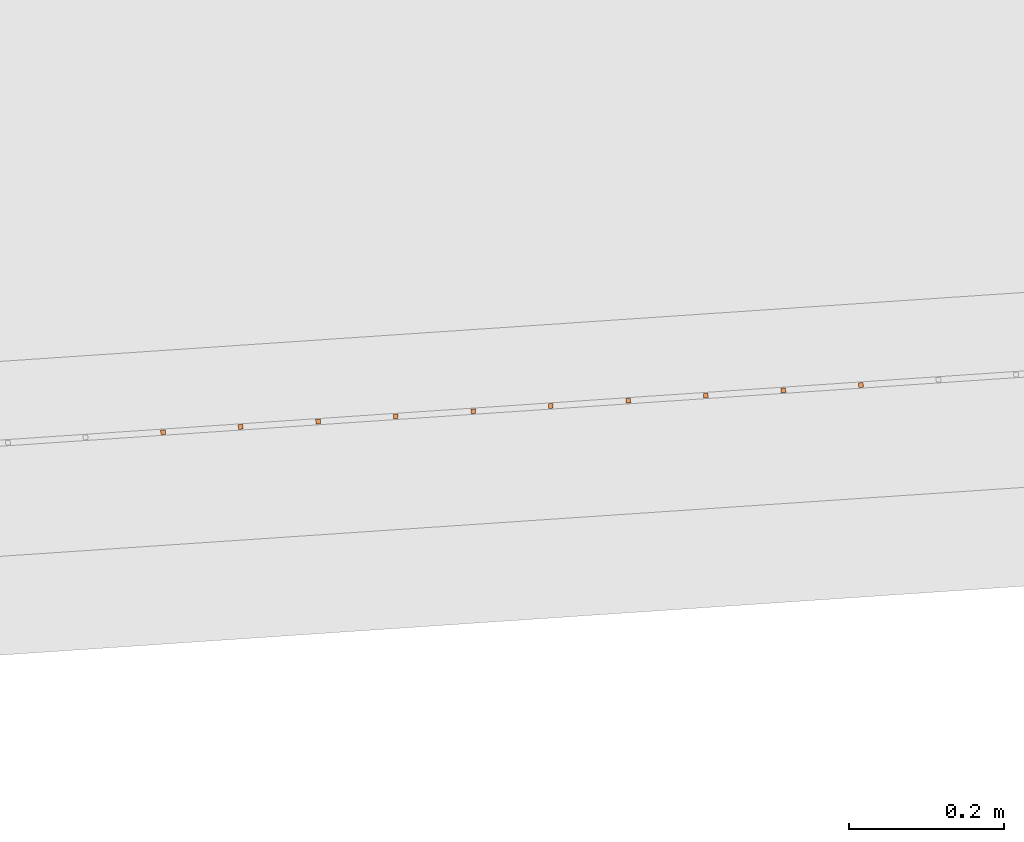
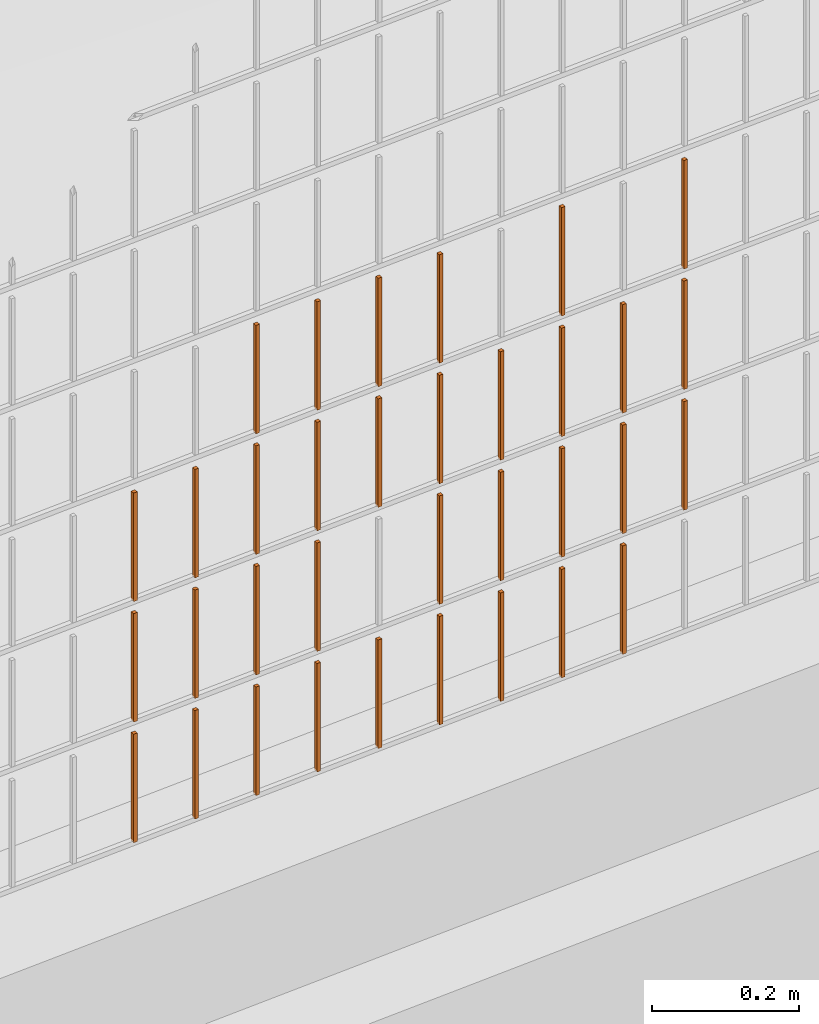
# One storey, part 346 of 1809: 34 proxies, 1 element without a shape of its own.
"""IFC2X3 building model written with IfcOpenShell, lengths in millimetres."""

from ifc_helpers import new_model, entity, si_unit, converted_unit, derived_unit, money_unit, direction, frame, origin_with_axes, place, context, subcontext, project, spatial, faceted_brep, source, transform, mapped, material, type_object, element, aggregate, save


model = new_model("IFC2X3")

# Units and contexts
model_context = context("Model", 3, precision=0.01, world=origin_with_axes(), true_north=direction((0.0, 1.0)))
body_context = subcontext(model_context, "Body", "Model", "MODEL_VIEW")
ifc_project = project(units=[si_unit("LENGTHUNIT", "METRE", prefix="MILLI"), si_unit("AREAUNIT", "SQUARE_METRE"), si_unit("VOLUMEUNIT", "CUBIC_METRE"), converted_unit("PLANEANGLEUNIT", "DEGREE", entity("IfcPlaneAngleMeasure", 0.0174532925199), si_unit("PLANEANGLEUNIT", "RADIAN"), dimensions=[0, 0, 0, 0, 0, 0, 0]), si_unit("SOLIDANGLEUNIT", "STERADIAN"), money_unit("EUR"), converted_unit("TIMEUNIT", "Year", entity("IfcTimeMeasure", 31556926.0), si_unit("TIMEUNIT", "SECOND"), dimensions=[0, 0, 1, 0, 0, 0, 0]), si_unit("MASSUNIT", "GRAM", prefix="KILO"), si_unit("THERMODYNAMICTEMPERATUREUNIT", "DEGREE_CELSIUS"), si_unit("LUMINOUSINTENSITYUNIT", "LUMEN"), si_unit("ENERGYUNIT", "JOULE", prefix="MEGA"), derived_unit("THERMALCONDUCTANCEUNIT", [(si_unit("POWERUNIT", "WATT"), 1), (si_unit("LENGTHUNIT", "METRE"), -1), (si_unit("THERMODYNAMICTEMPERATUREUNIT", "KELVIN"), -1)]), derived_unit("SPECIFICHEATCAPACITYUNIT", [(si_unit("ENERGYUNIT", "JOULE"), 1), (si_unit("MASSUNIT", "GRAM", prefix="KILO"), -1), (si_unit("THERMODYNAMICTEMPERATUREUNIT", "KELVIN"), -1)]), derived_unit("MASSDENSITYUNIT", [(si_unit("MASSUNIT", "GRAM", prefix="KILO"), 1), (si_unit("VOLUMEUNIT", "CUBIC_METRE"), -1)])], contexts=[model_context])

# Site, building, storey
site_placement = place(None, origin_with_axes())
site = spatial("IfcSite", under=ifc_project, at=site_placement, Name="Politse- ja Piirivalveameti ning Päästeameti ühishoone", CompositionType="ELEMENT")
building_placement = place(site_placement, origin_with_axes())
building = spatial("IfcBuilding", under=site, at=building_placement, Name="Politse- ja Piirivalveameti ning Päästeameti ühishoone", CompositionType="ELEMENT")
storey_placement = place(building_placement, origin_with_axes())
storey = spatial("IfcBuildingStorey", under=building, at=storey_placement, Name="Esimene korrus", CompositionType="ELEMENT", Elevation=0.0)

# Proxies
building_element_proxy_type_1 = type_object("IfcBuildingElementProxyType", Name="Railing Type", PredefinedType="NOTDEFINED")
proxy_1_placement = place(storey_placement, frame((89252.001212, -29183.4766571, 203.661247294), z_axis=(0.0, 0.0, 1.0), x_axis=(1.0, 0.0, 0.0)))
proxy_1 = element("IfcBuildingElementProxy", 1, at=proxy_1_placement, inside=storey, type_object=building_element_proxy_type_1, Name="PIIRDEAED")
ifc_material = material(Name="ET-03_Raud")
building_element_proxy_type_2 = type_object("IfcBuildingElementProxyType", Name="IfcBuildingElementProxy", PredefinedType="NOTDEFINED")
shared_shape_1 = source(origin_with_axes(), body_context, "Body", "Brep", [
    faceted_brep([(3.0, 3.0, -0.000752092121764), (-3.0, 3.0, -0.000752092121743), (-3.0, 3.0, 179.99926046), (3.0, 3.0, 179.99926046), (3.0, -3.0, 0.000752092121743), (-3.0, -3.0, 0.000752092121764), (-3.0, -3.0, 180.000764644), (3.0, -3.0, 180.000764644)], [[[0, 1, 2, 3]], [[0, 4, 5, 1]], [[1, 5, 6, 2]], [[3, 2, 6, 7]], [[4, 0, 3, 7]], [[5, 4, 7, 6]]]),
])
proxy_2_placement = place(proxy_1_placement, frame((-28262.2881008, -19206.7856648, 220.132959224), z_axis=(0.0, 0.0, 1.0), x_axis=(1.0, 0.0, 0.0)))
proxy_2 = element("IfcBuildingElementProxy", 2, at=proxy_2_placement, type_object=building_element_proxy_type_2, material=ifc_material, Name="BALUSTER - 001", context=body_context, shape_type="MappedRepresentation", body=[
    mapped(shared_shape_1, transform((0.0, 0.0, 0.0), x_axis=(-0.0673926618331, 0.997726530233, 0.0), y_axis=(-0.997726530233, -0.0673926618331, 0.0), z_axis=(0.0, 0.0, 1.0))),
])
shared_shape_2 = source(origin_with_axes(), body_context, "Body", "Brep", [
    faceted_brep([(3.0, 3.0, -0.000752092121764), (-3.0, 3.0, -0.000752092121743), (-3.0, 3.0, 179.99926046), (3.0, 3.0, 179.99926046), (3.0, -3.0, 0.000752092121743), (-3.0, -3.0, 0.000752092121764), (-3.0, -3.0, 180.000764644), (3.0, -3.0, 180.000764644)], [[[0, 1, 2, 3]], [[0, 4, 5, 1]], [[1, 5, 6, 2]], [[3, 2, 6, 7]], [[4, 0, 3, 7]], [[5, 4, 7, 6]]]),
])
proxy_3_placement = place(proxy_1_placement, frame((-28262.2881008, -19206.7856648, 620.132959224), z_axis=(0.0, 0.0, 1.0), x_axis=(1.0, 0.0, 0.0)))
proxy_3 = element("IfcBuildingElementProxy", 3, at=proxy_3_placement, type_object=building_element_proxy_type_2, material=ifc_material, Name="BALUSTER - 001", context=body_context, shape_type="MappedRepresentation", body=[
    mapped(shared_shape_2, transform((0.0, 0.0, 0.0), x_axis=(-0.0673926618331, 0.997726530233, 0.0), y_axis=(-0.997726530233, -0.0673926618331, 0.0), z_axis=(0.0, 0.0, 1.0))),
])
shared_shape_3 = source(origin_with_axes(), body_context, "Body", "Brep", [
    faceted_brep([(3.0, 3.0, -0.000752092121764), (-3.0, 3.0, -0.000752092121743), (-3.0, 3.0, 179.99926046), (3.0, 3.0, 179.99926046), (3.0, -3.0, 0.000752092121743), (-3.0, -3.0, 0.000752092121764), (-3.0, -3.0, 180.000764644), (3.0, -3.0, 180.000764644)], [[[0, 1, 2, 3]], [[0, 4, 5, 1]], [[1, 5, 6, 2]], [[3, 2, 6, 7]], [[4, 0, 3, 7]], [[5, 4, 7, 6]]]),
])
proxy_4_placement = place(proxy_1_placement, frame((-28262.2881008, -19206.7856648, 420.132959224), z_axis=(0.0, 0.0, 1.0), x_axis=(1.0, 0.0, 0.0)))
proxy_4 = element("IfcBuildingElementProxy", 4, at=proxy_4_placement, type_object=building_element_proxy_type_2, material=ifc_material, Name="BALUSTER - 001", context=body_context, shape_type="MappedRepresentation", body=[
    mapped(shared_shape_3, transform((0.0, 0.0, 0.0), x_axis=(-0.0673926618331, 0.997726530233, 0.0), y_axis=(-0.997726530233, -0.0673926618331, 0.0), z_axis=(0.0, 0.0, 1.0))),
])
shared_shape_4 = source(origin_with_axes(), body_context, "Body", "Brep", [
    faceted_brep([(3.0, 3.0, -0.000752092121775), (-3.0, 3.0, -0.000752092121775), (-3.0, 3.0, 179.99926046), (3.0, 3.0, 179.99926046), (3.0, -3.0, 0.000752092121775), (-3.0, -3.0, 0.000752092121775), (-3.0, -3.0, 180.000764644), (3.0, -3.0, 180.000764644)], [[[0, 1, 2, 3]], [[0, 4, 5, 1]], [[1, 5, 6, 2]], [[3, 2, 6, 7]], [[4, 0, 3, 7]], [[5, 4, 7, 6]]]),
])
proxy_5_placement = place(proxy_1_placement, frame((-28761.1513659, -19240.4819957, 20.0076105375), z_axis=(0.0, 0.0, 1.0), x_axis=(1.0, 0.0, 0.0)))
proxy_5 = element("IfcBuildingElementProxy", 5, at=proxy_5_placement, type_object=building_element_proxy_type_2, material=ifc_material, Name="BALUSTER - 001", context=body_context, shape_type="MappedRepresentation", body=[
    mapped(shared_shape_4, transform((0.0, 0.0, 0.0), x_axis=(-0.0673926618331, 0.997726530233, 0.0), y_axis=(-0.997726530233, -0.0673926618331, 0.0), z_axis=(0.0, 0.0, 1.0))),
])
shared_shape_5 = source(origin_with_axes(), body_context, "Body", "Brep", [
    faceted_brep([(3.0, 3.0, -0.000752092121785), (-3.0, 3.0, -0.000752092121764), (-3.0, 3.0, 179.99926046), (3.0, 3.0, 179.99926046), (3.0, -3.0, 0.000752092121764), (-3.0, -3.0, 0.000752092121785), (-3.0, -3.0, 180.000764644), (3.0, -3.0, 180.000764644)], [[[0, 1, 2, 3]], [[0, 4, 5, 1]], [[1, 5, 6, 2]], [[3, 2, 6, 7]], [[4, 0, 3, 7]], [[5, 4, 7, 6]]]),
])
proxy_6_placement = place(proxy_1_placement, frame((-28860.9240189, -19247.2212619, 419.9825408), z_axis=(0.0, 0.0, 1.0), x_axis=(1.0, 0.0, 0.0)))
proxy_6 = element("IfcBuildingElementProxy", 6, at=proxy_6_placement, type_object=building_element_proxy_type_2, material=ifc_material, Name="BALUSTER - 001", context=body_context, shape_type="MappedRepresentation", body=[
    mapped(shared_shape_5, transform((0.0, 0.0, 0.0), x_axis=(-0.0673926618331, 0.997726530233, 0.0), y_axis=(-0.997726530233, -0.0673926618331, 0.0), z_axis=(0.0, 0.0, 1.0))),
])
shared_shape_6 = source(origin_with_axes(), body_context, "Body", "Brep", [
    faceted_brep([(3.0, 3.0, -0.000752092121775), (-3.0, 3.0, -0.000752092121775), (-3.0, 3.0, 179.99926046), (3.0, 3.0, 179.99926046), (3.0, -3.0, 0.000752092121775), (-3.0, -3.0, 0.000752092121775), (-3.0, -3.0, 180.000764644), (3.0, -3.0, 180.000764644)], [[[0, 1, 2, 3]], [[0, 4, 5, 1]], [[1, 5, 6, 2]], [[3, 2, 6, 7]], [[4, 0, 3, 7]], [[5, 4, 7, 6]]]),
])
proxy_7_placement = place(proxy_1_placement, frame((-28761.1513659, -19240.4819957, 620.007610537), z_axis=(0.0, 0.0, 1.0), x_axis=(1.0, 0.0, 0.0)))
proxy_7 = element("IfcBuildingElementProxy", 7, at=proxy_7_placement, type_object=building_element_proxy_type_2, material=ifc_material, Name="BALUSTER - 001", context=body_context, shape_type="MappedRepresentation", body=[
    mapped(shared_shape_6, transform((0.0, 0.0, 0.0), x_axis=(-0.0673926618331, 0.997726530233, 0.0), y_axis=(-0.997726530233, -0.0673926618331, 0.0), z_axis=(0.0, 0.0, 1.0))),
])
shared_shape_7 = source(origin_with_axes(), body_context, "Body", "Brep", [
    faceted_brep([(3.0, 3.0, -0.000752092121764), (-3.0, 3.0, -0.000752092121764), (-3.0, 3.0, 179.99926046), (3.0, 3.0, 179.99926046), (3.0, -3.0, 0.000752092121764), (-3.0, -3.0, 0.000752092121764), (-3.0, -3.0, 180.000764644), (3.0, -3.0, 180.000764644)], [[[0, 1, 2, 3]], [[0, 4, 5, 1]], [[1, 5, 6, 2]], [[3, 2, 6, 7]], [[4, 0, 3, 7]], [[5, 4, 7, 6]]]),
])
proxy_8_placement = place(proxy_1_placement, frame((-28561.6060598, -19227.0034633, 20.0577500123), z_axis=(0.0, 0.0, 1.0), x_axis=(1.0, 0.0, 0.0)))
proxy_8 = element("IfcBuildingElementProxy", 8, at=proxy_8_placement, type_object=building_element_proxy_type_2, material=ifc_material, Name="BALUSTER - 001", context=body_context, shape_type="MappedRepresentation", body=[
    mapped(shared_shape_7, transform((0.0, 0.0, 0.0), x_axis=(-0.0673926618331, 0.997726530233, 0.0), y_axis=(-0.997726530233, -0.0673926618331, 0.0), z_axis=(0.0, 0.0, 1.0))),
])
shared_shape_8 = source(origin_with_axes(), body_context, "Body", "Brep", [
    faceted_brep([(3.0, 3.0, -0.000752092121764), (-3.0, 3.0, -0.000752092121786), (-3.0, 3.0, 179.99926046), (3.0, 3.0, 179.99926046), (3.0, -3.0, 0.000752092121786), (-3.0, -3.0, 0.000752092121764), (-3.0, -3.0, 180.000764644), (3.0, -3.0, 180.000764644)], [[[0, 1, 2, 3]], [[0, 4, 5, 1]], [[1, 5, 6, 2]], [[3, 2, 6, 7]], [[4, 0, 3, 7]], [[5, 4, 7, 6]]]),
])
proxy_9_placement = place(proxy_1_placement, frame((-28661.3787129, -19233.7427295, 20.0326802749), z_axis=(0.0, 0.0, 1.0), x_axis=(1.0, 0.0, 0.0)))
proxy_9 = element("IfcBuildingElementProxy", 9, at=proxy_9_placement, type_object=building_element_proxy_type_2, material=ifc_material, Name="BALUSTER - 001", context=body_context, shape_type="MappedRepresentation", body=[
    mapped(shared_shape_8, transform((0.0, 0.0, 0.0), x_axis=(-0.0673926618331, 0.997726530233, 0.0), y_axis=(-0.997726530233, -0.0673926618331, 0.0), z_axis=(0.0, 0.0, 1.0))),
])
shared_shape_9 = source(origin_with_axes(), body_context, "Body", "Brep", [
    faceted_brep([(3.0, 3.0, -0.000752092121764), (-3.0, 3.0, -0.000752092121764), (-3.0, 3.0, 179.99926046), (3.0, 3.0, 179.99926046), (3.0, -3.0, 0.000752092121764), (-3.0, -3.0, 0.000752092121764), (-3.0, -3.0, 180.000764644), (3.0, -3.0, 180.000764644)], [[[0, 1, 2, 3]], [[0, 4, 5, 1]], [[1, 5, 6, 2]], [[3, 2, 6, 7]], [[4, 0, 3, 7]], [[5, 4, 7, 6]]]),
])
proxy_10_placement = place(proxy_1_placement, frame((-28561.6060598, -19227.0034633, 420.057750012), z_axis=(0.0, 0.0, 1.0), x_axis=(1.0, 0.0, 0.0)))
proxy_10 = element("IfcBuildingElementProxy", 10, at=proxy_10_placement, type_object=building_element_proxy_type_2, material=ifc_material, Name="BALUSTER - 001", context=body_context, shape_type="MappedRepresentation", body=[
    mapped(shared_shape_9, transform((0.0, 0.0, 0.0), x_axis=(-0.0673926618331, 0.997726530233, 0.0), y_axis=(-0.997726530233, -0.0673926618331, 0.0), z_axis=(0.0, 0.0, 1.0))),
])
shared_shape_10 = source(origin_with_axes(), body_context, "Body", "Brep", [
    faceted_brep([(3.0, 3.0, -0.000752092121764), (-3.0, 3.0, -0.000752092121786), (-3.0, 3.0, 179.99926046), (3.0, 3.0, 179.99926046), (3.0, -3.0, 0.000752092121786), (-3.0, -3.0, 0.000752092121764), (-3.0, -3.0, 180.000764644), (3.0, -3.0, 180.000764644)], [[[0, 1, 2, 3]], [[0, 4, 5, 1]], [[1, 5, 6, 2]], [[3, 2, 6, 7]], [[4, 0, 3, 7]], [[5, 4, 7, 6]]]),
])
proxy_11_placement = place(proxy_1_placement, frame((-28461.8334068, -19220.2641972, 220.08281975), z_axis=(0.0, 0.0, 1.0), x_axis=(1.0, 0.0, 0.0)))
proxy_11 = element("IfcBuildingElementProxy", 11, at=proxy_11_placement, type_object=building_element_proxy_type_2, material=ifc_material, Name="BALUSTER - 001", context=body_context, shape_type="MappedRepresentation", body=[
    mapped(shared_shape_10, transform((0.0, 0.0, 0.0), x_axis=(-0.0673926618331, 0.997726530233, 0.0), y_axis=(-0.997726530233, -0.0673926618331, 0.0), z_axis=(0.0, 0.0, 1.0))),
])
proxy_12_placement = place(proxy_1_placement, frame((-28661.3787129, -19233.7427295, 220.032680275), z_axis=(0.0, 0.0, 1.0), x_axis=(1.0, 0.0, 0.0)))
proxy_12 = element("IfcBuildingElementProxy", 12, at=proxy_12_placement, type_object=building_element_proxy_type_2, material=ifc_material, Name="BALUSTER - 001", context=body_context, shape_type="MappedRepresentation", body=[
    mapped(shared_shape_10, transform((0.0, 0.0, 0.0), x_axis=(-0.0673926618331, 0.997726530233, 0.0), y_axis=(-0.997726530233, -0.0673926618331, 0.0), z_axis=(0.0, 0.0, 1.0))),
])
proxy_13_placement = place(proxy_1_placement, frame((-28461.8334068, -19220.2641972, 420.08281975), z_axis=(0.0, 0.0, 1.0), x_axis=(1.0, 0.0, 0.0)))
proxy_13 = element("IfcBuildingElementProxy", 13, at=proxy_13_placement, type_object=building_element_proxy_type_2, material=ifc_material, Name="BALUSTER - 001", context=body_context, shape_type="MappedRepresentation", body=[
    mapped(shared_shape_10, transform((0.0, 0.0, 0.0), x_axis=(-0.0673926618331, 0.997726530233, 0.0), y_axis=(-0.997726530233, -0.0673926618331, 0.0), z_axis=(0.0, 0.0, 1.0))),
])
proxy_14_placement = place(proxy_1_placement, frame((-28661.3787129, -19233.7427295, 420.032680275), z_axis=(0.0, 0.0, 1.0), x_axis=(1.0, 0.0, 0.0)))
proxy_14 = element("IfcBuildingElementProxy", 14, at=proxy_14_placement, type_object=building_element_proxy_type_2, material=ifc_material, Name="BALUSTER - 001", context=body_context, shape_type="MappedRepresentation", body=[
    mapped(shared_shape_10, transform((0.0, 0.0, 0.0), x_axis=(-0.0673926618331, 0.997726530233, 0.0), y_axis=(-0.997726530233, -0.0673926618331, 0.0), z_axis=(0.0, 0.0, 1.0))),
])
shared_shape_11 = source(origin_with_axes(), body_context, "Body", "Brep", [
    faceted_brep([(3.0, 3.0, -0.000752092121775), (-3.0, 3.0, -0.000752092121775), (-3.0, 3.0, 179.99926046), (3.0, 3.0, 179.99926046), (3.0, -3.0, 0.000752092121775), (-3.0, -3.0, 0.000752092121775), (-3.0, -3.0, 180.000764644), (3.0, -3.0, 180.000764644)], [[[0, 1, 2, 3]], [[0, 4, 5, 1]], [[1, 5, 6, 2]], [[3, 2, 6, 7]], [[4, 0, 3, 7]], [[5, 4, 7, 6]]]),
])
proxy_15_placement = place(proxy_1_placement, frame((-28761.1513659, -19240.4819957, 420.007610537), z_axis=(0.0, 0.0, 1.0), x_axis=(1.0, 0.0, 0.0)))
proxy_15 = element("IfcBuildingElementProxy", 15, at=proxy_15_placement, type_object=building_element_proxy_type_2, material=ifc_material, Name="BALUSTER - 001", context=body_context, shape_type="MappedRepresentation", body=[
    mapped(shared_shape_11, transform((0.0, 0.0, 0.0), x_axis=(-0.0673926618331, 0.997726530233, 0.0), y_axis=(-0.997726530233, -0.0673926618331, 0.0), z_axis=(0.0, 0.0, 1.0))),
])
shared_shape_12 = source(origin_with_axes(), body_context, "Body", "Brep", [
    faceted_brep([(3.0, 3.0, -0.000752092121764), (-3.0, 3.0, -0.000752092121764), (-3.0, 3.0, 179.99926046), (3.0, 3.0, 179.99926046), (3.0, -3.0, 0.000752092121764), (-3.0, -3.0, 0.000752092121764), (-3.0, -3.0, 180.000764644), (3.0, -3.0, 180.000764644)], [[[0, 1, 2, 3]], [[0, 4, 5, 1]], [[1, 5, 6, 2]], [[3, 2, 6, 7]], [[4, 0, 3, 7]], [[5, 4, 7, 6]]]),
])
proxy_16_placement = place(proxy_1_placement, frame((-28561.6060598, -19227.0034633, 220.057750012), z_axis=(0.0, 0.0, 1.0), x_axis=(1.0, 0.0, 0.0)))
proxy_16 = element("IfcBuildingElementProxy", 16, at=proxy_16_placement, type_object=building_element_proxy_type_2, material=ifc_material, Name="BALUSTER - 001", context=body_context, shape_type="MappedRepresentation", body=[
    mapped(shared_shape_12, transform((0.0, 0.0, 0.0), x_axis=(-0.0673926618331, 0.997726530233, 0.0), y_axis=(-0.997726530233, -0.0673926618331, 0.0), z_axis=(0.0, 0.0, 1.0))),
])
shared_shape_13 = source(origin_with_axes(), body_context, "Body", "Brep", [
    faceted_brep([(3.0, 3.0, -0.000752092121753), (-3.0, 3.0, -0.000752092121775), (-3.0, 3.0, 179.99926046), (3.0, 3.0, 179.99926046), (3.0, -3.0, 0.000752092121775), (-3.0, -3.0, 0.000752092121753), (-3.0, -3.0, 180.000764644), (3.0, -3.0, 180.000764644)], [[[0, 1, 2, 3]], [[0, 4, 5, 1]], [[1, 5, 6, 2]], [[3, 2, 6, 7]], [[4, 0, 3, 7]], [[5, 4, 7, 6]]]),
])
proxy_17_placement = place(proxy_1_placement, frame((-28362.0607538, -19213.524931, 420.107889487), z_axis=(0.0, 0.0, 1.0), x_axis=(1.0, 0.0, 0.0)))
proxy_17 = element("IfcBuildingElementProxy", 17, at=proxy_17_placement, type_object=building_element_proxy_type_2, material=ifc_material, Name="BALUSTER - 001", context=body_context, shape_type="MappedRepresentation", body=[
    mapped(shared_shape_13, transform((0.0, 0.0, 0.0), x_axis=(-0.0673926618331, 0.997726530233, 0.0), y_axis=(-0.997726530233, -0.0673926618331, 0.0), z_axis=(0.0, 0.0, 1.0))),
])
shared_shape_14 = source(origin_with_axes(), body_context, "Body", "Brep", [
    faceted_brep([(3.0, 3.0, -0.000752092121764), (-3.0, 3.0, -0.000752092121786), (-3.0, 3.0, 179.99926046), (3.0, 3.0, 179.99926046), (3.0, -3.0, 0.000752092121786), (-3.0, -3.0, 0.000752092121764), (-3.0, -3.0, 180.000764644), (3.0, -3.0, 180.000764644)], [[[0, 1, 2, 3]], [[0, 4, 5, 1]], [[1, 5, 6, 2]], [[3, 2, 6, 7]], [[4, 0, 3, 7]], [[5, 4, 7, 6]]]),
])
proxy_18_placement = place(proxy_1_placement, frame((-28461.8334068, -19220.2641972, 620.08281975), z_axis=(0.0, 0.0, 1.0), x_axis=(1.0, 0.0, 0.0)))
proxy_18 = element("IfcBuildingElementProxy", 18, at=proxy_18_placement, type_object=building_element_proxy_type_2, material=ifc_material, Name="BALUSTER - 001", context=body_context, shape_type="MappedRepresentation", body=[
    mapped(shared_shape_14, transform((0.0, 0.0, 0.0), x_axis=(-0.0673926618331, 0.997726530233, 0.0), y_axis=(-0.997726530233, -0.0673926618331, 0.0), z_axis=(0.0, 0.0, 1.0))),
])
shared_shape_15 = source(origin_with_axes(), body_context, "Body", "Brep", [
    faceted_brep([(3.0, 3.0, -0.000752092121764), (-3.0, 3.0, -0.000752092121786), (-3.0, 3.0, 179.99926046), (3.0, 3.0, 179.99926046), (3.0, -3.0, 0.000752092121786), (-3.0, -3.0, 0.000752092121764), (-3.0, -3.0, 180.000764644), (3.0, -3.0, 180.000764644)], [[[0, 1, 2, 3]], [[0, 4, 5, 1]], [[1, 5, 6, 2]], [[3, 2, 6, 7]], [[4, 0, 3, 7]], [[5, 4, 7, 6]]]),
])
proxy_19_placement = place(proxy_1_placement, frame((-28661.3787129, -19233.7427295, 620.032680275), z_axis=(0.0, 0.0, 1.0), x_axis=(1.0, 0.0, 0.0)))
proxy_19 = element("IfcBuildingElementProxy", 19, at=proxy_19_placement, type_object=building_element_proxy_type_2, material=ifc_material, Name="BALUSTER - 001", context=body_context, shape_type="MappedRepresentation", body=[
    mapped(shared_shape_15, transform((0.0, 0.0, 0.0), x_axis=(-0.0673926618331, 0.997726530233, 0.0), y_axis=(-0.997726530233, -0.0673926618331, 0.0), z_axis=(0.0, 0.0, 1.0))),
])
shared_shape_16 = source(origin_with_axes(), body_context, "Body", "Brep", [
    faceted_brep([(3.0, 3.0, -0.000752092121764), (-3.0, 3.0, -0.000752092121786), (-3.0, 3.0, 179.99926046), (3.0, 3.0, 179.99926046), (3.0, -3.0, 0.000752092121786), (-3.0, -3.0, 0.000752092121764), (-3.0, -3.0, 180.000764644), (3.0, -3.0, 180.000764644)], [[[0, 1, 2, 3]], [[0, 4, 5, 1]], [[1, 5, 6, 2]], [[3, 2, 6, 7]], [[4, 0, 3, 7]], [[5, 4, 7, 6]]]),
])
proxy_20_placement = place(proxy_1_placement, frame((-28461.8334068, -19220.2641972, 20.0828197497), z_axis=(0.0, 0.0, 1.0), x_axis=(1.0, 0.0, 0.0)))
proxy_20 = element("IfcBuildingElementProxy", 20, at=proxy_20_placement, type_object=building_element_proxy_type_2, material=ifc_material, Name="BALUSTER - 001", context=body_context, shape_type="MappedRepresentation", body=[
    mapped(shared_shape_16, transform((0.0, 0.0, 0.0), x_axis=(-0.0673926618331, 0.997726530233, 0.0), y_axis=(-0.997726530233, -0.0673926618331, 0.0), z_axis=(0.0, 0.0, 1.0))),
])
shared_shape_17 = source(origin_with_axes(), body_context, "Body", "Brep", [
    faceted_brep([(3.0, 3.0, -0.000752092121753), (-3.0, 3.0, -0.000752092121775), (-3.0, 3.0, 179.99926046), (3.0, 3.0, 179.99926046), (3.0, -3.0, 0.000752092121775), (-3.0, -3.0, 0.000752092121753), (-3.0, -3.0, 180.000764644), (3.0, -3.0, 180.000764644)], [[[0, 1, 2, 3]], [[0, 4, 5, 1]], [[1, 5, 6, 2]], [[3, 2, 6, 7]], [[4, 0, 3, 7]], [[5, 4, 7, 6]]]),
])
proxy_21_placement = place(proxy_1_placement, frame((-28362.0607538, -19213.524931, 20.107889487), z_axis=(0.0, 0.0, 1.0), x_axis=(1.0, 0.0, 0.0)))
proxy_21 = element("IfcBuildingElementProxy", 21, at=proxy_21_placement, type_object=building_element_proxy_type_2, material=ifc_material, Name="BALUSTER - 001", context=body_context, shape_type="MappedRepresentation", body=[
    mapped(shared_shape_17, transform((0.0, 0.0, 0.0), x_axis=(-0.0673926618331, 0.997726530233, 0.0), y_axis=(-0.997726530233, -0.0673926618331, 0.0), z_axis=(0.0, 0.0, 1.0))),
])
proxy_22_placement = place(proxy_1_placement, frame((-28362.0607538, -19213.524931, 220.107889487), z_axis=(0.0, 0.0, 1.0), x_axis=(1.0, 0.0, 0.0)))
proxy_22 = element("IfcBuildingElementProxy", 22, at=proxy_22_placement, type_object=building_element_proxy_type_2, material=ifc_material, Name="BALUSTER - 001", context=body_context, shape_type="MappedRepresentation", body=[
    mapped(shared_shape_17, transform((0.0, 0.0, 0.0), x_axis=(-0.0673926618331, 0.997726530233, 0.0), y_axis=(-0.997726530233, -0.0673926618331, 0.0), z_axis=(0.0, 0.0, 1.0))),
])
shared_shape_18 = source(origin_with_axes(), body_context, "Body", "Brep", [
    faceted_brep([(3.0, 3.0, -0.000752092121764), (-3.0, 3.0, -0.000752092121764), (-3.0, 3.0, 179.99926046), (3.0, 3.0, 179.99926046), (3.0, -3.0, 0.000752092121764), (-3.0, -3.0, 0.000752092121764), (-3.0, -3.0, 180.000764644), (3.0, -3.0, 180.000764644)], [[[0, 1, 2, 3]], [[0, 4, 5, 1]], [[1, 5, 6, 2]], [[3, 2, 6, 7]], [[4, 0, 3, 7]], [[5, 4, 7, 6]]]),
])
proxy_23_placement = place(proxy_1_placement, frame((-28960.6966719, -19253.9605281, 19.9574710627), z_axis=(0.0, 0.0, 1.0), x_axis=(1.0, 0.0, 0.0)))
proxy_23 = element("IfcBuildingElementProxy", 23, at=proxy_23_placement, type_object=building_element_proxy_type_2, material=ifc_material, Name="BALUSTER - 001", context=body_context, shape_type="MappedRepresentation", body=[
    mapped(shared_shape_18, transform((0.0, 0.0, 0.0), x_axis=(-0.0673926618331, 0.997726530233, 0.0), y_axis=(-0.997726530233, -0.0673926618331, 0.0), z_axis=(0.0, 0.0, 1.0))),
])
proxy_24_placement = place(proxy_1_placement, frame((-28960.6966719, -19253.9605281, 219.957471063), z_axis=(0.0, 0.0, 1.0), x_axis=(1.0, 0.0, 0.0)))
proxy_24 = element("IfcBuildingElementProxy", 24, at=proxy_24_placement, type_object=building_element_proxy_type_2, material=ifc_material, Name="BALUSTER - 001", context=body_context, shape_type="MappedRepresentation", body=[
    mapped(shared_shape_18, transform((0.0, 0.0, 0.0), x_axis=(-0.0673926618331, 0.997726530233, 0.0), y_axis=(-0.997726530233, -0.0673926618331, 0.0), z_axis=(0.0, 0.0, 1.0))),
])
shared_shape_19 = source(origin_with_axes(), body_context, "Body", "Brep", [
    faceted_brep([(3.0, 3.0, -0.000752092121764), (-3.0, 3.0, -0.000752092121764), (-3.0, 3.0, 179.99926046), (3.0, 3.0, 179.99926046), (3.0, -3.0, 0.000752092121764), (-3.0, -3.0, 0.000752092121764), (-3.0, -3.0, 180.000764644), (3.0, -3.0, 180.000764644)], [[[0, 1, 2, 3]], [[0, 4, 5, 1]], [[1, 5, 6, 2]], [[3, 2, 6, 7]], [[4, 0, 3, 7]], [[5, 4, 7, 6]]]),
])
proxy_25_placement = place(proxy_1_placement, frame((-28960.6966719, -19253.9605281, 419.957471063), z_axis=(0.0, 0.0, 1.0), x_axis=(1.0, 0.0, 0.0)))
proxy_25 = element("IfcBuildingElementProxy", 25, at=proxy_25_placement, type_object=building_element_proxy_type_2, material=ifc_material, Name="BALUSTER - 001", context=body_context, shape_type="MappedRepresentation", body=[
    mapped(shared_shape_19, transform((0.0, 0.0, 0.0), x_axis=(-0.0673926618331, 0.997726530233, 0.0), y_axis=(-0.997726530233, -0.0673926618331, 0.0), z_axis=(0.0, 0.0, 1.0))),
])
shared_shape_20 = source(origin_with_axes(), body_context, "Body", "Brep", [
    faceted_brep([(3.0, 3.0, -0.000752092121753), (-3.0, 3.0, -0.000752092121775), (-3.0, 3.0, 179.99926046), (3.0, 3.0, 179.99926046), (3.0, -3.0, 0.000752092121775), (-3.0, -3.0, 0.000752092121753), (-3.0, -3.0, 180.000764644), (3.0, -3.0, 180.000764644)], [[[0, 1, 2, 3]], [[0, 4, 5, 1]], [[1, 5, 6, 2]], [[3, 2, 6, 7]], [[4, 0, 3, 7]], [[5, 4, 7, 6]]]),
])
proxy_26_placement = place(proxy_1_placement, frame((-29060.469325, -19260.6997943, 419.932401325), z_axis=(0.0, 0.0, 1.0), x_axis=(1.0, 0.0, 0.0)))
proxy_26 = element("IfcBuildingElementProxy", 26, at=proxy_26_placement, type_object=building_element_proxy_type_2, material=ifc_material, Name="BALUSTER - 001", context=body_context, shape_type="MappedRepresentation", body=[
    mapped(shared_shape_20, transform((0.0, 0.0, 0.0), x_axis=(-0.0673926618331, 0.997726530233, 0.0), y_axis=(-0.997726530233, -0.0673926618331, 0.0), z_axis=(0.0, 0.0, 1.0))),
])
shared_shape_21 = source(origin_with_axes(), body_context, "Body", "Brep", [
    faceted_brep([(3.0, 3.0, -0.000752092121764), (-3.0, 3.0, -0.000752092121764), (-3.0, 3.0, 179.99926046), (3.0, 3.0, 179.99926046), (3.0, -3.0, 0.000752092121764), (-3.0, -3.0, 0.000752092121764), (-3.0, -3.0, 180.000764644), (3.0, -3.0, 180.000764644)], [[[0, 1, 2, 3]], [[0, 4, 5, 1]], [[1, 5, 6, 2]], [[3, 2, 6, 7]], [[4, 0, 3, 7]], [[5, 4, 7, 6]]]),
])
proxy_27_placement = place(proxy_1_placement, frame((-28960.6966719, -19253.9605281, 619.957471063), z_axis=(0.0, 0.0, 1.0), x_axis=(1.0, 0.0, 0.0)))
proxy_27 = element("IfcBuildingElementProxy", 27, at=proxy_27_placement, type_object=building_element_proxy_type_2, material=ifc_material, Name="BALUSTER - 001", context=body_context, shape_type="MappedRepresentation", body=[
    mapped(shared_shape_21, transform((0.0, 0.0, 0.0), x_axis=(-0.0673926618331, 0.997726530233, 0.0), y_axis=(-0.997726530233, -0.0673926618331, 0.0), z_axis=(0.0, 0.0, 1.0))),
])
shared_shape_22 = source(origin_with_axes(), body_context, "Body", "Brep", [
    faceted_brep([(3.0, 3.0, -0.000752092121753), (-3.0, 3.0, -0.000752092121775), (-3.0, 3.0, 179.99926046), (3.0, 3.0, 179.99926046), (3.0, -3.0, 0.000752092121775), (-3.0, -3.0, 0.000752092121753), (-3.0, -3.0, 180.000764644), (3.0, -3.0, 180.000764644)], [[[0, 1, 2, 3]], [[0, 4, 5, 1]], [[1, 5, 6, 2]], [[3, 2, 6, 7]], [[4, 0, 3, 7]], [[5, 4, 7, 6]]]),
])
proxy_28_placement = place(proxy_1_placement, frame((-29060.469325, -19260.6997943, 19.9324013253), z_axis=(0.0, 0.0, 1.0), x_axis=(1.0, 0.0, 0.0)))
proxy_28 = element("IfcBuildingElementProxy", 28, at=proxy_28_placement, type_object=building_element_proxy_type_2, material=ifc_material, Name="BALUSTER - 001", context=body_context, shape_type="MappedRepresentation", body=[
    mapped(shared_shape_22, transform((0.0, 0.0, 0.0), x_axis=(-0.0673926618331, 0.997726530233, 0.0), y_axis=(-0.997726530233, -0.0673926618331, 0.0), z_axis=(0.0, 0.0, 1.0))),
])
shared_shape_23 = source(origin_with_axes(), body_context, "Body", "Brep", [
    faceted_brep([(3.0, 3.0, -0.000752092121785), (-3.0, 3.0, -0.000752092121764), (-3.0, 3.0, 179.99926046), (3.0, 3.0, 179.99926046), (3.0, -3.0, 0.000752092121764), (-3.0, -3.0, 0.000752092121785), (-3.0, -3.0, 180.000764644), (3.0, -3.0, 180.000764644)], [[[0, 1, 2, 3]], [[0, 4, 5, 1]], [[1, 5, 6, 2]], [[3, 2, 6, 7]], [[4, 0, 3, 7]], [[5, 4, 7, 6]]]),
])
proxy_29_placement = place(proxy_1_placement, frame((-28860.9240189, -19247.2212619, 19.9825408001), z_axis=(0.0, 0.0, 1.0), x_axis=(1.0, 0.0, 0.0)))
proxy_29 = element("IfcBuildingElementProxy", 29, at=proxy_29_placement, type_object=building_element_proxy_type_2, material=ifc_material, Name="BALUSTER - 001", context=body_context, shape_type="MappedRepresentation", body=[
    mapped(shared_shape_23, transform((0.0, 0.0, 0.0), x_axis=(-0.0673926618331, 0.997726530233, 0.0), y_axis=(-0.997726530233, -0.0673926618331, 0.0), z_axis=(0.0, 0.0, 1.0))),
])
shared_shape_24 = source(origin_with_axes(), body_context, "Body", "Brep", [
    faceted_brep([(3.0, 3.0, -0.000752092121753), (-3.0, 3.0, -0.000752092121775), (-3.0, 3.0, 179.99926046), (3.0, 3.0, 179.99926046), (3.0, -3.0, 0.000752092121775), (-3.0, -3.0, 0.000752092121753), (-3.0, -3.0, 180.000764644), (3.0, -3.0, 180.000764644)], [[[0, 1, 2, 3]], [[0, 4, 5, 1]], [[1, 5, 6, 2]], [[3, 2, 6, 7]], [[4, 0, 3, 7]], [[5, 4, 7, 6]]]),
])
proxy_30_placement = place(proxy_1_placement, frame((-29160.241978, -19267.4390604, 19.9073315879), z_axis=(0.0, 0.0, 1.0), x_axis=(1.0, 0.0, 0.0)))
proxy_30 = element("IfcBuildingElementProxy", 30, at=proxy_30_placement, type_object=building_element_proxy_type_2, material=ifc_material, Name="BALUSTER - 001", context=body_context, shape_type="MappedRepresentation", body=[
    mapped(shared_shape_24, transform((0.0, 0.0, 0.0), x_axis=(-0.0673926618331, 0.997726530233, 0.0), y_axis=(-0.997726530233, -0.0673926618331, 0.0), z_axis=(0.0, 0.0, 1.0))),
])
shared_shape_25 = source(origin_with_axes(), body_context, "Body", "Brep", [
    faceted_brep([(3.0, 3.0, -0.000752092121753), (-3.0, 3.0, -0.000752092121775), (-3.0, 3.0, 179.99926046), (3.0, 3.0, 179.99926046), (3.0, -3.0, 0.000752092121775), (-3.0, -3.0, 0.000752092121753), (-3.0, -3.0, 180.000764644), (3.0, -3.0, 180.000764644)], [[[0, 1, 2, 3]], [[0, 4, 5, 1]], [[1, 5, 6, 2]], [[3, 2, 6, 7]], [[4, 0, 3, 7]], [[5, 4, 7, 6]]]),
])
proxy_31_placement = place(proxy_1_placement, frame((-29060.469325, -19260.6997943, 219.932401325), z_axis=(0.0, 0.0, 1.0), x_axis=(1.0, 0.0, 0.0)))
proxy_31 = element("IfcBuildingElementProxy", 31, at=proxy_31_placement, type_object=building_element_proxy_type_2, material=ifc_material, Name="BALUSTER - 001", context=body_context, shape_type="MappedRepresentation", body=[
    mapped(shared_shape_25, transform((0.0, 0.0, 0.0), x_axis=(-0.0673926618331, 0.997726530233, 0.0), y_axis=(-0.997726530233, -0.0673926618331, 0.0), z_axis=(0.0, 0.0, 1.0))),
])
proxy_32_placement = place(proxy_1_placement, frame((-29160.241978, -19267.4390604, 219.907331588), z_axis=(0.0, 0.0, 1.0), x_axis=(1.0, 0.0, 0.0)))
proxy_32 = element("IfcBuildingElementProxy", 32, at=proxy_32_placement, type_object=building_element_proxy_type_2, material=ifc_material, Name="BALUSTER - 001", context=body_context, shape_type="MappedRepresentation", body=[
    mapped(shared_shape_25, transform((0.0, 0.0, 0.0), x_axis=(-0.0673926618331, 0.997726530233, 0.0), y_axis=(-0.997726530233, -0.0673926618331, 0.0), z_axis=(0.0, 0.0, 1.0))),
])
proxy_33_placement = place(proxy_1_placement, frame((-29160.241978, -19267.4390604, 419.907331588), z_axis=(0.0, 0.0, 1.0), x_axis=(1.0, 0.0, 0.0)))
proxy_33 = element("IfcBuildingElementProxy", 33, at=proxy_33_placement, type_object=building_element_proxy_type_2, material=ifc_material, Name="BALUSTER - 001", context=body_context, shape_type="MappedRepresentation", body=[
    mapped(shared_shape_25, transform((0.0, 0.0, 0.0), x_axis=(-0.0673926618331, 0.997726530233, 0.0), y_axis=(-0.997726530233, -0.0673926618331, 0.0), z_axis=(0.0, 0.0, 1.0))),
])
shared_shape_26 = source(origin_with_axes(), body_context, "Body", "Brep", [
    faceted_brep([(3.0, 3.0, -0.000752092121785), (-3.0, 3.0, -0.000752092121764), (-3.0, 3.0, 179.99926046), (3.0, 3.0, 179.99926046), (3.0, -3.0, 0.000752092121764), (-3.0, -3.0, 0.000752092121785), (-3.0, -3.0, 180.000764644), (3.0, -3.0, 180.000764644)], [[[0, 1, 2, 3]], [[0, 4, 5, 1]], [[1, 5, 6, 2]], [[3, 2, 6, 7]], [[4, 0, 3, 7]], [[5, 4, 7, 6]]]),
])
proxy_34_placement = place(proxy_1_placement, frame((-28860.9240189, -19247.2212619, 219.9825408), z_axis=(0.0, 0.0, 1.0), x_axis=(1.0, 0.0, 0.0)))
proxy_34 = element("IfcBuildingElementProxy", 34, at=proxy_34_placement, type_object=building_element_proxy_type_2, material=ifc_material, Name="BALUSTER - 001", context=body_context, shape_type="MappedRepresentation", body=[
    mapped(shared_shape_26, transform((0.0, 0.0, 0.0), x_axis=(-0.0673926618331, 0.997726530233, 0.0), y_axis=(-0.997726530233, -0.0673926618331, 0.0), z_axis=(0.0, 0.0, 1.0))),
])
shared_shape_27 = source(origin_with_axes(), body_context, "Body", "Brep", [
    faceted_brep([(3.0, 3.0, -0.000752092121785), (-3.0, 3.0, -0.000752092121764), (-3.0, 3.0, 179.99926046), (3.0, 3.0, 179.99926046), (3.0, -3.0, 0.000752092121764), (-3.0, -3.0, 0.000752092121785), (-3.0, -3.0, 180.000764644), (3.0, -3.0, 180.000764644)], [[[0, 1, 2, 3]], [[0, 4, 5, 1]], [[1, 5, 6, 2]], [[3, 2, 6, 7]], [[4, 0, 3, 7]], [[5, 4, 7, 6]]]),
])
proxy_35_placement = place(proxy_1_placement, frame((-28860.9240189, -19247.2212619, 619.9825408), z_axis=(0.0, 0.0, 1.0), x_axis=(1.0, 0.0, 0.0)))
proxy_35 = element("IfcBuildingElementProxy", 35, at=proxy_35_placement, type_object=building_element_proxy_type_2, material=ifc_material, Name="BALUSTER - 001", context=body_context, shape_type="MappedRepresentation", body=[
    mapped(shared_shape_27, transform((0.0, 0.0, 0.0), x_axis=(-0.0673926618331, 0.997726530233, 0.0), y_axis=(-0.997726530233, -0.0673926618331, 0.0), z_axis=(0.0, 0.0, 1.0))),
])
aggregate(proxy_1, [proxy_21, proxy_20, proxy_8, proxy_9, proxy_5, proxy_29, proxy_23, proxy_28, proxy_30, proxy_2, proxy_22, proxy_11, proxy_16, proxy_12, proxy_34, proxy_24, proxy_31, proxy_32, proxy_4, proxy_17, proxy_13, proxy_10, proxy_14, proxy_15, proxy_6, proxy_25, proxy_26, proxy_33, proxy_3, proxy_18, proxy_19, proxy_7, proxy_35, proxy_27])

save(model, "model.ifc")
